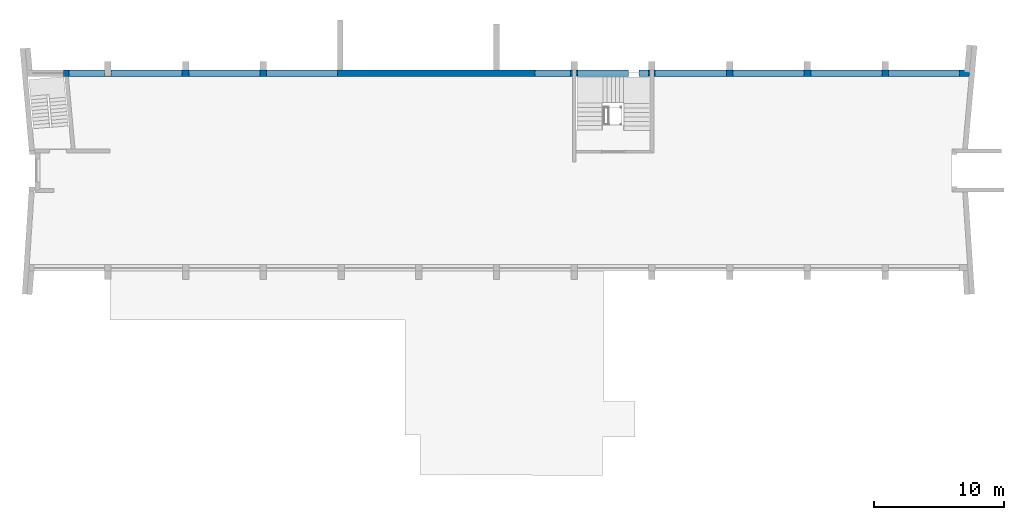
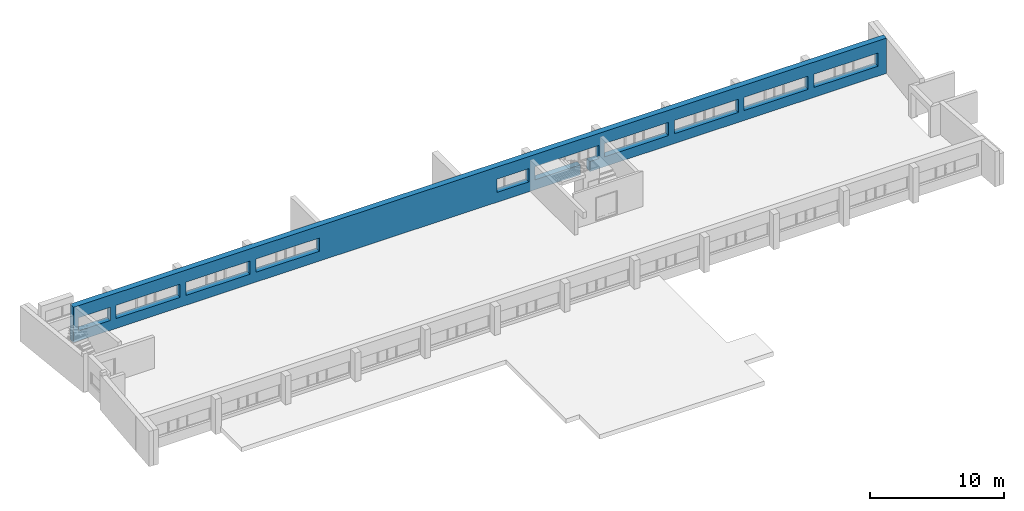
# One storey, part 4 of 10: 1 wall, 21 openings.
"""IFC2X3 building model written with IfcOpenShell, lengths in millimetres."""

from ifc_helpers import new_model, entity, si_unit, converted_unit, money_unit, direction, frame, origin_with_axes, place, context, subcontext, project, spatial, polyline, outline, extrude, material, layer, layer_set, layer_usage, type_object, element, save


model = new_model("IFC2X3")

# Units and contexts
model_context = context("Model", 3, precision=1e-05, world=origin_with_axes(), true_north=direction((0.0, 1.0)))
body_context = subcontext(model_context, "Body", "Model", "MODEL_VIEW")
ifc_project = project(units=[si_unit("LENGTHUNIT", "METRE", prefix="MILLI"), si_unit("AREAUNIT", "SQUARE_METRE"), si_unit("VOLUMEUNIT", "CUBIC_METRE"), converted_unit("PLANEANGLEUNIT", "DEGREE", entity("IfcPlaneAngleMeasure", 0.0174532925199), si_unit("PLANEANGLEUNIT", "RADIAN"), dimensions=[0, 0, 0, 0, 0, 0, 0]), si_unit("SOLIDANGLEUNIT", "STERADIAN"), money_unit("USD"), converted_unit("TIMEUNIT", "Year", entity("IfcTimeMeasure", 31556926.0), si_unit("TIMEUNIT", "SECOND"), dimensions=[0, 0, 0, 0, 0, 0, 0]), si_unit("MASSUNIT", "GRAM"), si_unit("THERMODYNAMICTEMPERATUREUNIT", "DEGREE_CELSIUS"), si_unit("LUMINOUSINTENSITYUNIT", "LUMEN")], contexts=[model_context])

# Site, building, storey
site_placement = place(None, origin_with_axes())
site = spatial("IfcSite", under=ifc_project, at=site_placement, Name="Site", CompositionType="ELEMENT")
building_placement = place(site_placement, origin_with_axes())
building = spatial("IfcBuilding", under=site, at=building_placement, Name="Building", CompositionType="ELEMENT")
storey_placement = place(building_placement, origin_with_axes())
storey = spatial("IfcBuildingStorey", under=building, at=storey_placement, Name="2KORRUS", CompositionType="ELEMENT", Elevation=0.0)

# Wall, openings
ifc_material = material(Name="Olemasolevad seinad tellis, uus viimistlus")
ifc_layer = layer(ifc_material, 500.0, ventilated="UNKNOWN")
ifc_layer_set = layer_set([ifc_layer], Name="Olemasolevad seinad tellis, uus viimistlus 500")
ifc_layer_usage = layer_usage(ifc_layer_set, "AXIS2", "POSITIVE", -100.0)
wall_type = type_object("IfcWallType", Name="Olemasolevad seinad tellis, uus viimistlus 500", PredefinedType="NOTDEFINED")
wall_placement = place(storey_placement, frame((-51569.3388124, -5039.6041088, 0.0), z_axis=(0.0, 0.0, 1.0), x_axis=(1.0, 0.0, 0.0)))
wall = element("IfcWallStandardCase", 1, at=wall_placement, inside=storey, type_object=wall_type, material=ifc_layer_usage, Name="VS1", ObjectType="VS1", context=body_context, shape_type="SweptSolid", body=[
    extrude(outline(polyline([(0.0, -100.0), (69914.7195482, -100.0), (69959.6995146, 400.0), (0.0, 400.0), (0.0, -100.0)])), origin_with_axes(), (0.0, 0.0, 1.0), 3200.0),
])
opening_1_placement = place(wall_placement, frame((40654.2540697, 0.0, 900.0), z_axis=(0.0, 0.0, 1.0), x_axis=(1.0, 0.0, 0.0)))
element("IfcOpeningElement", 2, at=opening_1_placement, cuts=wall, Name="WD - 003", context=body_context, shape_type="SweptSolid", body=[
    extrude(outline(polyline([(-958.199, 1200.0), (-958.199, 0.0), (958.199, 0.0), (958.199, 1200.0), (-958.199, 1200.0)])), frame((0.0, 200.0, 0.0), z_axis=(0.0, -1.0, 0.0), x_axis=(1.0, 0.0, 0.0)), (0.0, 0.0, 1.0), 800.0),
    extrude(outline(polyline([(-958.199, 0.0), (-958.199, -1200.0), (958.199, -1200.0), (958.199, 0.0), (-958.199, 0.0)])), frame((0.0, 200.0, 0.0), z_axis=(0.0, 1.0, 0.0), x_axis=(1.0, 0.0, 0.0)), (0.0, 0.0, 1.0), 700.0),
])
opening_2_placement = place(wall_placement, frame((42012.4533378, 0.0, 900.0), z_axis=(0.0, 0.0, 1.0), x_axis=(1.0, 0.0, 0.0)))
element("IfcOpeningElement", 3, at=opening_2_placement, cuts=wall, Name="WD - 003", context=body_context, shape_type="SweptSolid", body=[
    extrude(outline(polyline([(-400.0, 1200.0), (-400.0, 0.0), (400.0, 0.0), (400.0, 1200.0), (-400.0, 1200.0)])), frame((0.0, 200.0, 0.0), z_axis=(0.0, -1.0, 0.0), x_axis=(1.0, 0.0, 0.0)), (0.0, 0.0, 1.0), 800.0),
    extrude(outline(polyline([(-400.0, 0.0), (-400.0, -1200.0), (400.0, -1200.0), (400.0, 0.0), (-400.0, 0.0)])), frame((0.0, 200.0, 0.0), z_axis=(0.0, 1.0, 0.0), x_axis=(1.0, 0.0, 0.0)), (0.0, 0.0, 1.0), 700.0),
])
opening_3_placement = place(wall_placement, frame((43012.4533378, 0.0, 900.0), z_axis=(0.0, 0.0, 1.0), x_axis=(1.0, 0.0, 0.0)))
element("IfcOpeningElement", 4, at=opening_3_placement, cuts=wall, Name="WD - 003", context=body_context, shape_type="SweptSolid", body=[
    extrude(outline(polyline([(-600.0, 1200.0), (-600.0, 0.0), (600.0, 0.0), (600.0, 1200.0), (-600.0, 1200.0)])), frame((0.0, 200.0, 0.0), z_axis=(0.0, -1.0, 0.0), x_axis=(1.0, 0.0, 0.0)), (0.0, 0.0, 1.0), 800.0),
    extrude(outline(polyline([(-600.0, 0.0), (-600.0, -1200.0), (600.0, -1200.0), (600.0, 0.0), (-600.0, 0.0)])), frame((0.0, 200.0, 0.0), z_axis=(0.0, 1.0, 0.0), x_axis=(1.0, 0.0, 0.0)), (0.0, 0.0, 1.0), 700.0),
])
opening_4_placement = place(wall_placement, frame((44789.8584402, 0.0, 900.0), z_axis=(0.0, 0.0, 1.0), x_axis=(1.0, 0.0, 0.0)))
element("IfcOpeningElement", 5, at=opening_4_placement, cuts=wall, Name="WD - 003", context=body_context, shape_type="SweptSolid", body=[
    extrude(outline(polyline([(-389.184, 1200.0), (-389.184, 0.0), (389.184, 0.0), (389.184, 1200.0), (-389.184, 1200.0)])), frame((0.0, 200.0, 0.0), z_axis=(0.0, -1.0, 0.0), x_axis=(1.0, 0.0, 0.0)), (0.0, 0.0, 1.0), 800.0),
    extrude(outline(polyline([(-389.184, 0.0), (-389.184, -1200.0), (389.184, -1200.0), (389.184, 0.0), (-389.184, 0.0)])), frame((0.0, 200.0, 0.0), z_axis=(0.0, 1.0, 0.0), x_axis=(1.0, 0.0, 0.0)), (0.0, 0.0, 1.0), 700.0),
])
opening_5_placement = place(wall_placement, frame((1809.37110726, 0.0, 900.0), z_axis=(0.0, 0.0, 1.0), x_axis=(1.0, 0.0, 0.0)))
element("IfcOpeningElement", 6, at=opening_5_placement, cuts=wall, Name="A1", context=body_context, shape_type="SweptSolid", body=[
    extrude(outline(polyline([(1375.0, 1200.0), (-1375.0, 1200.0), (-1375.0, 0.0), (1375.0, 0.0), (1375.0, 1200.0)])), frame((0.0, 250.0, 0.0), z_axis=(0.0, -1.0, 0.0), x_axis=(1.0, 0.0, 0.0)), (0.0, 0.0, 1.0), 850.0),
    extrude(outline(polyline([(1375.0, 0.0), (-1375.0, 0.0), (-1375.0, -1200.0), (1375.0, -1200.0), (1375.0, 0.0)])), frame((0.0, 250.0, 0.0), z_axis=(0.0, 1.0, 0.0), x_axis=(1.0, 0.0, 0.0)), (0.0, 0.0, 1.0), 650.0),
])
opening_6_placement = place(wall_placement, frame((7795.91085613, 0.0, 900.0), z_axis=(0.0, 0.0, 1.0), x_axis=(1.0, 0.0, 0.0)))
element("IfcOpeningElement", 7, at=opening_6_placement, cuts=wall, Name="A1", context=body_context, shape_type="SweptSolid", body=[
    extrude(outline(polyline([(1375.0, 1200.0), (-1375.0, 1200.0), (-1375.0, 0.0), (1375.0, 0.0), (1375.0, 1200.0)])), frame((0.0, 250.0, 0.0), z_axis=(0.0, -1.0, 0.0), x_axis=(1.0, 0.0, 0.0)), (0.0, 0.0, 1.0), 850.0),
    extrude(outline(polyline([(1375.0, 0.0), (-1375.0, 0.0), (-1375.0, -1200.0), (1375.0, -1200.0), (1375.0, 0.0)])), frame((0.0, 250.0, 0.0), z_axis=(0.0, 1.0, 0.0), x_axis=(1.0, 0.0, 0.0)), (0.0, 0.0, 1.0), 650.0),
])
opening_7_placement = place(wall_placement, frame((5050.04210911, 0.0, 900.0), z_axis=(0.0, 0.0, 1.0), x_axis=(1.0, 0.0, 0.0)))
element("IfcOpeningElement", 8, at=opening_7_placement, cuts=wall, Name="A2", context=body_context, shape_type="SweptSolid", body=[
    extrude(outline(polyline([(-1375.0, 1200.0), (-1375.0, 0.0), (1375.0, 0.0), (1375.0, 1200.0), (-1375.0, 1200.0)])), frame((0.0, 250.0, 0.0), z_axis=(0.0, -1.0, 0.0), x_axis=(1.0, 0.0, 0.0)), (0.0, 0.0, 1.0), 850.0),
    extrude(outline(polyline([(-1375.0, 0.0), (-1375.0, -1200.0), (1375.0, -1200.0), (1375.0, 0.0), (-1375.0, 0.0)])), frame((0.0, 250.0, 0.0), z_axis=(0.0, 1.0, 0.0), x_axis=(1.0, 0.0, 0.0)), (0.0, 0.0, 1.0), 650.0),
])
opening_8_placement = place(wall_placement, frame((13804.0421091, 0.0, 900.0), z_axis=(0.0, 0.0, 1.0), x_axis=(1.0, 0.0, 0.0)))
element("IfcOpeningElement", 9, at=opening_8_placement, cuts=wall, Name="A1", context=body_context, shape_type="SweptSolid", body=[
    extrude(outline(polyline([(1375.0, 1200.0), (-1375.0, 1200.0), (-1375.0, 0.0), (1375.0, 0.0), (1375.0, 1200.0)])), frame((0.0, 250.0, 0.0), z_axis=(0.0, -1.0, 0.0), x_axis=(1.0, 0.0, 0.0)), (0.0, 0.0, 1.0), 850.0),
    extrude(outline(polyline([(1375.0, 0.0), (-1375.0, 0.0), (-1375.0, -1200.0), (1375.0, -1200.0), (1375.0, 0.0)])), frame((0.0, 250.0, 0.0), z_axis=(0.0, 1.0, 0.0), x_axis=(1.0, 0.0, 0.0)), (0.0, 0.0, 1.0), 650.0),
])
opening_9_placement = place(wall_placement, frame((11054.0421091, 0.0, 900.0), z_axis=(0.0, 0.0, 1.0), x_axis=(1.0, 0.0, 0.0)))
element("IfcOpeningElement", 10, at=opening_9_placement, cuts=wall, Name="A2", context=body_context, shape_type="SweptSolid", body=[
    extrude(outline(polyline([(-1375.0, 1200.0), (-1375.0, 0.0), (1375.0, 0.0), (1375.0, 1200.0), (-1375.0, 1200.0)])), frame((0.0, 250.0, 0.0), z_axis=(0.0, -1.0, 0.0), x_axis=(1.0, 0.0, 0.0)), (0.0, 0.0, 1.0), 850.0),
    extrude(outline(polyline([(-1375.0, 0.0), (-1375.0, -1200.0), (1375.0, -1200.0), (1375.0, 0.0), (-1375.0, 0.0)])), frame((0.0, 250.0, 0.0), z_axis=(0.0, 1.0, 0.0), x_axis=(1.0, 0.0, 0.0)), (0.0, 0.0, 1.0), 650.0),
])
opening_10_placement = place(wall_placement, frame((19798.2593471, 0.0, 900.0), z_axis=(0.0, 0.0, 1.0), x_axis=(1.0, 0.0, 0.0)))
element("IfcOpeningElement", 11, at=opening_10_placement, cuts=wall, Name="A1", context=body_context, shape_type="SweptSolid", body=[
    extrude(outline(polyline([(1369.217, 1200.0), (-1369.217, 1200.0), (-1369.217, 0.0), (1369.217, 0.0), (1369.217, 1200.0)])), frame((0.0, 250.0, 0.0), z_axis=(0.0, -1.0, 0.0), x_axis=(1.0, 0.0, 0.0)), (0.0, 0.0, 1.0), 850.0),
    extrude(outline(polyline([(1369.217, 0.0), (-1369.217, 0.0), (-1369.217, -1200.0), (1369.217, -1200.0), (1369.217, 0.0)])), frame((0.0, 250.0, 0.0), z_axis=(0.0, 1.0, 0.0), x_axis=(1.0, 0.0, 0.0)), (0.0, 0.0, 1.0), 650.0),
])
opening_11_placement = place(wall_placement, frame((17054.0421091, 0.0, 900.0), z_axis=(0.0, 0.0, 1.0), x_axis=(1.0, 0.0, 0.0)))
element("IfcOpeningElement", 12, at=opening_11_placement, cuts=wall, Name="A2", context=body_context, shape_type="SweptSolid", body=[
    extrude(outline(polyline([(-1375.0, 1200.0), (-1375.0, 0.0), (1375.0, 0.0), (1375.0, 1200.0), (-1375.0, 1200.0)])), frame((0.0, 250.0, 0.0), z_axis=(0.0, -1.0, 0.0), x_axis=(1.0, 0.0, 0.0)), (0.0, 0.0, 1.0), 850.0),
    extrude(outline(polyline([(-1375.0, 0.0), (-1375.0, -1200.0), (1375.0, -1200.0), (1375.0, 0.0), (-1375.0, 0.0)])), frame((0.0, 250.0, 0.0), z_axis=(0.0, 1.0, 0.0), x_axis=(1.0, 0.0, 0.0)), (0.0, 0.0, 1.0), 650.0),
])
opening_12_placement = place(wall_placement, frame((37782.0421091, 0.0, 900.0), z_axis=(0.0, 0.0, 1.0), x_axis=(1.0, 0.0, 0.0)))
element("IfcOpeningElement", 13, at=opening_12_placement, cuts=wall, Name="A1", context=body_context, shape_type="SweptSolid", body=[
    extrude(outline(polyline([(1375.0, 1200.0), (-1375.0, 1200.0), (-1375.0, 0.0), (1375.0, 0.0), (1375.0, 1200.0)])), frame((0.0, 200.0, 0.0), z_axis=(0.0, -1.0, 0.0), x_axis=(1.0, 0.0, 0.0)), (0.0, 0.0, 1.0), 800.0),
    extrude(outline(polyline([(1375.0, 0.0), (-1375.0, 0.0), (-1375.0, -1200.0), (1375.0, -1200.0), (1375.0, 0.0)])), frame((0.0, 200.0, 0.0), z_axis=(0.0, 1.0, 0.0), x_axis=(1.0, 0.0, 0.0)), (0.0, 0.0, 1.0), 700.0),
])
opening_13_placement = place(wall_placement, frame((49804.0421091, 0.0, 900.0), z_axis=(0.0, 0.0, 1.0), x_axis=(1.0, 0.0, 0.0)))
element("IfcOpeningElement", 14, at=opening_13_placement, cuts=wall, Name="A1", context=body_context, shape_type="SweptSolid", body=[
    extrude(outline(polyline([(1375.0, 1200.0), (-1375.0, 1200.0), (-1375.0, 0.0), (1375.0, 0.0), (1375.0, 1200.0)])), frame((0.0, 250.0, 0.0), z_axis=(0.0, -1.0, 0.0), x_axis=(1.0, 0.0, 0.0)), (0.0, 0.0, 1.0), 850.0),
    extrude(outline(polyline([(1375.0, 0.0), (-1375.0, 0.0), (-1375.0, -1200.0), (1375.0, -1200.0), (1375.0, 0.0)])), frame((0.0, 250.0, 0.0), z_axis=(0.0, 1.0, 0.0), x_axis=(1.0, 0.0, 0.0)), (0.0, 0.0, 1.0), 650.0),
])
opening_14_placement = place(wall_placement, frame((47054.0421091, 0.0, 900.0), z_axis=(0.0, 0.0, 1.0), x_axis=(1.0, 0.0, 0.0)))
element("IfcOpeningElement", 15, at=opening_14_placement, cuts=wall, Name="A2", context=body_context, shape_type="SweptSolid", body=[
    extrude(outline(polyline([(-1375.0, 1200.0), (-1375.0, 0.0), (1375.0, 0.0), (1375.0, 1200.0), (-1375.0, 1200.0)])), frame((0.0, 250.0, 0.0), z_axis=(0.0, -1.0, 0.0), x_axis=(1.0, 0.0, 0.0)), (0.0, 0.0, 1.0), 850.0),
    extrude(outline(polyline([(-1375.0, 0.0), (-1375.0, -1200.0), (1375.0, -1200.0), (1375.0, 0.0), (-1375.0, 0.0)])), frame((0.0, 250.0, 0.0), z_axis=(0.0, 1.0, 0.0), x_axis=(1.0, 0.0, 0.0)), (0.0, 0.0, 1.0), 650.0),
])
opening_15_placement = place(wall_placement, frame((55804.0421091, 0.0, 900.0), z_axis=(0.0, 0.0, 1.0), x_axis=(1.0, 0.0, 0.0)))
element("IfcOpeningElement", 16, at=opening_15_placement, cuts=wall, Name="A1", context=body_context, shape_type="SweptSolid", body=[
    extrude(outline(polyline([(1375.0, 1200.0), (-1375.0, 1200.0), (-1375.0, 0.0), (1375.0, 0.0), (1375.0, 1200.0)])), frame((0.0, 200.0, 0.0), z_axis=(0.0, -1.0, 0.0), x_axis=(1.0, 0.0, 0.0)), (0.0, 0.0, 1.0), 800.0),
    extrude(outline(polyline([(1375.0, 0.0), (-1375.0, 0.0), (-1375.0, -1200.0), (1375.0, -1200.0), (1375.0, 0.0)])), frame((0.0, 200.0, 0.0), z_axis=(0.0, 1.0, 0.0), x_axis=(1.0, 0.0, 0.0)), (0.0, 0.0, 1.0), 700.0),
])
opening_16_placement = place(wall_placement, frame((53054.0421091, 0.0, 900.0), z_axis=(0.0, 0.0, 1.0), x_axis=(1.0, 0.0, 0.0)))
element("IfcOpeningElement", 17, at=opening_16_placement, cuts=wall, Name="A2", context=body_context, shape_type="SweptSolid", body=[
    extrude(outline(polyline([(-1375.0, 1200.0), (-1375.0, 0.0), (1375.0, 0.0), (1375.0, 1200.0), (-1375.0, 1200.0)])), frame((0.0, 200.0, 0.0), z_axis=(0.0, -1.0, 0.0), x_axis=(1.0, 0.0, 0.0)), (0.0, 0.0, 1.0), 800.0),
    extrude(outline(polyline([(-1375.0, 0.0), (-1375.0, -1200.0), (1375.0, -1200.0), (1375.0, 0.0), (-1375.0, 0.0)])), frame((0.0, 200.0, 0.0), z_axis=(0.0, 1.0, 0.0), x_axis=(1.0, 0.0, 0.0)), (0.0, 0.0, 1.0), 700.0),
])
opening_17_placement = place(wall_placement, frame((61808.0876391, 0.0, 900.0), z_axis=(0.0, 0.0, 1.0), x_axis=(1.0, 0.0, 0.0)))
element("IfcOpeningElement", 18, at=opening_17_placement, cuts=wall, Name="A1", context=body_context, shape_type="SweptSolid", body=[
    extrude(outline(polyline([(1370.954, 1200.0), (-1370.954, 1200.0), (-1370.954, 0.0), (1370.954, 0.0), (1370.954, 1200.0)])), frame((0.0, 200.0, 0.0), z_axis=(0.0, -1.0, 0.0), x_axis=(1.0, 0.0, 0.0)), (0.0, 0.0, 1.0), 800.0),
    extrude(outline(polyline([(1370.954, 0.0), (-1370.954, 0.0), (-1370.954, -1200.0), (1370.954, -1200.0), (1370.954, 0.0)])), frame((0.0, 200.0, 0.0), z_axis=(0.0, 1.0, 0.0), x_axis=(1.0, 0.0, 0.0)), (0.0, 0.0, 1.0), 700.0),
])
opening_18_placement = place(wall_placement, frame((59062.1331691, 0.0, 900.0), z_axis=(0.0, 0.0, 1.0), x_axis=(1.0, 0.0, 0.0)))
element("IfcOpeningElement", 19, at=opening_18_placement, cuts=wall, Name="A2", context=body_context, shape_type="SweptSolid", body=[
    extrude(outline(polyline([(-1375.0, 1200.0), (-1375.0, 0.0), (1375.0, 0.0), (1375.0, 1200.0), (-1375.0, 1200.0)])), frame((0.0, 200.0, 0.0), z_axis=(0.0, -1.0, 0.0), x_axis=(1.0, 0.0, 0.0)), (0.0, 0.0, 1.0), 800.0),
    extrude(outline(polyline([(-1375.0, 0.0), (-1375.0, -1200.0), (1375.0, -1200.0), (1375.0, 0.0), (-1375.0, 0.0)])), frame((0.0, 200.0, 0.0), z_axis=(0.0, 1.0, 0.0), x_axis=(1.0, 0.0, 0.0)), (0.0, 0.0, 1.0), 700.0),
])
opening_19_placement = place(wall_placement, frame((67804.0421091, 0.0, 900.0), z_axis=(0.0, 0.0, 1.0), x_axis=(1.0, 0.0, 0.0)))
element("IfcOpeningElement", 20, at=opening_19_placement, cuts=wall, Name="A1", context=body_context, shape_type="SweptSolid", body=[
    extrude(outline(polyline([(1375.0, 1200.0), (-1375.0, 1200.0), (-1375.0, 0.0), (1375.0, 0.0), (1375.0, 1200.0)])), frame((0.0, 200.0, 0.0), z_axis=(0.0, -1.0, 0.0), x_axis=(1.0, 0.0, 0.0)), (0.0, 0.0, 1.0), 800.0),
    extrude(outline(polyline([(1375.0, 0.0), (-1375.0, 0.0), (-1375.0, -1200.0), (1375.0, -1200.0), (1375.0, 0.0)])), frame((0.0, 200.0, 0.0), z_axis=(0.0, 1.0, 0.0), x_axis=(1.0, 0.0, 0.0)), (0.0, 0.0, 1.0), 700.0),
])
opening_20_placement = place(wall_placement, frame((65054.0421091, 0.0, 900.0), z_axis=(0.0, 0.0, 1.0), x_axis=(1.0, 0.0, 0.0)))
element("IfcOpeningElement", 21, at=opening_20_placement, cuts=wall, Name="A2", context=body_context, shape_type="SweptSolid", body=[
    extrude(outline(polyline([(-1375.0, 1200.0), (-1375.0, 0.0), (1375.0, 0.0), (1375.0, 1200.0), (-1375.0, 1200.0)])), frame((0.0, 200.0, 0.0), z_axis=(0.0, -1.0, 0.0), x_axis=(1.0, 0.0, 0.0)), (0.0, 0.0, 1.0), 800.0),
    extrude(outline(polyline([(-1375.0, 0.0), (-1375.0, -1200.0), (1375.0, -1200.0), (1375.0, 0.0), (-1375.0, 0.0)])), frame((0.0, 200.0, 0.0), z_axis=(0.0, 1.0, 0.0), x_axis=(1.0, 0.0, 0.0)), (0.0, 0.0, 1.0), 700.0),
])
opening_21_placement = place(wall_placement, frame((44012.4533378, 0.0, 0.0), z_axis=(0.0, 0.0, 1.0), x_axis=(1.0, 0.0, 0.0)))
element("IfcOpeningElement", 22, at=opening_21_placement, cuts=wall, Name="KLA", context=body_context, shape_type="SweptSolid", body=[
    extrude(outline(polyline([(-400.0, 2100.0), (-400.0, 0.0), (400.0, 0.0), (400.0, 2100.0), (-400.0, 2100.0)])), frame((0.0, 200.0, 0.0), z_axis=(0.0, -1.0, 0.0), x_axis=(1.0, 0.0, 0.0)), (0.0, 0.0, 1.0), 800.0),
    extrude(outline(polyline([(-400.0, 0.0), (-400.0, -2100.0), (400.0, -2100.0), (400.0, 0.0), (-400.0, 0.0)])), frame((0.0, 200.0, 0.0), z_axis=(0.0, 1.0, 0.0), x_axis=(1.0, 0.0, 0.0)), (0.0, 0.0, 1.0), 700.0),
])

save(model, "model.ifc")
